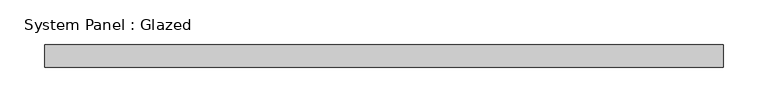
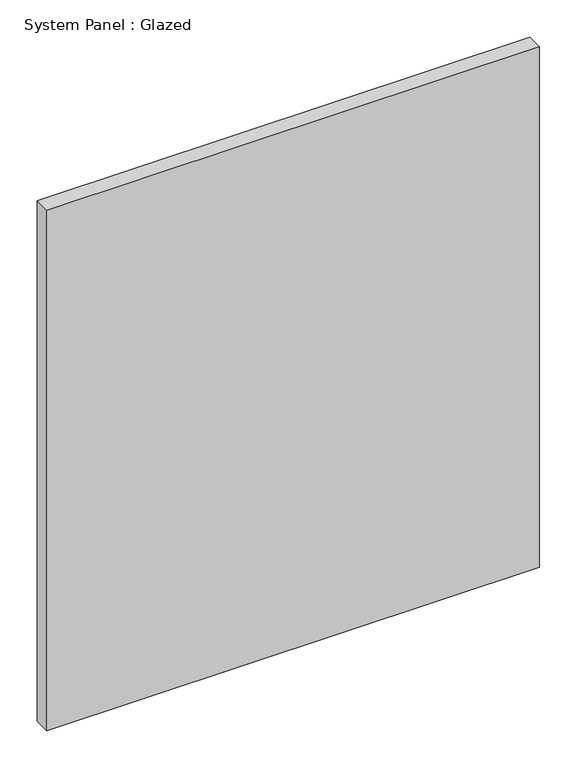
"""IFC4 building model written with IfcOpenShell, lengths in millimetres: plate geometry, System Panel : Glazed."""

from ifc_helpers import new_model, si_unit, origin, origin_with_axes, place, context, project, spatial, polyline, outline, extrude, source, transform, mapped, element, save


def system_panel_glazed_4fa5cbd7(model_context):
    return source(origin(), model_context, "Body", "SweptSolid", [
        extrude(outline(polyline([(381.0, 19.05), (-381.0, 19.05), (-381.0, 44.45), (381.0, 44.45), (381.0, 19.05)])), origin_with_axes(), (0.0, 0.0, 1.0), 850.9),
    ])


if __name__ == "__main__":
    model = new_model("IFC4")
    model_context = context("Model", 3, world=origin())
    ifc_project = project(units=[si_unit("LENGTHUNIT", "METRE", prefix="MILLI")], contexts=[model_context])
    site = spatial("IfcSite", under=ifc_project)
    building = spatial("IfcBuilding", under=site)
    placement = place(None, origin())
    system_panel_glazed_shape = system_panel_glazed_4fa5cbd7(model_context)
    element("IfcPlate", 1, ObjectType="System Panel : Glazed", at=placement, inside=building, context=model_context, shape_type="MappedRepresentation", body=[
        mapped(system_panel_glazed_shape, transform((0.0, 0.0, 0.0), x_axis=(1.0, 0.0, 0.0), y_axis=(0.0, 1.0, 0.0), z_axis=(0.0, 0.0, 1.0))),
    ])
    save(model, "model.ifc")
